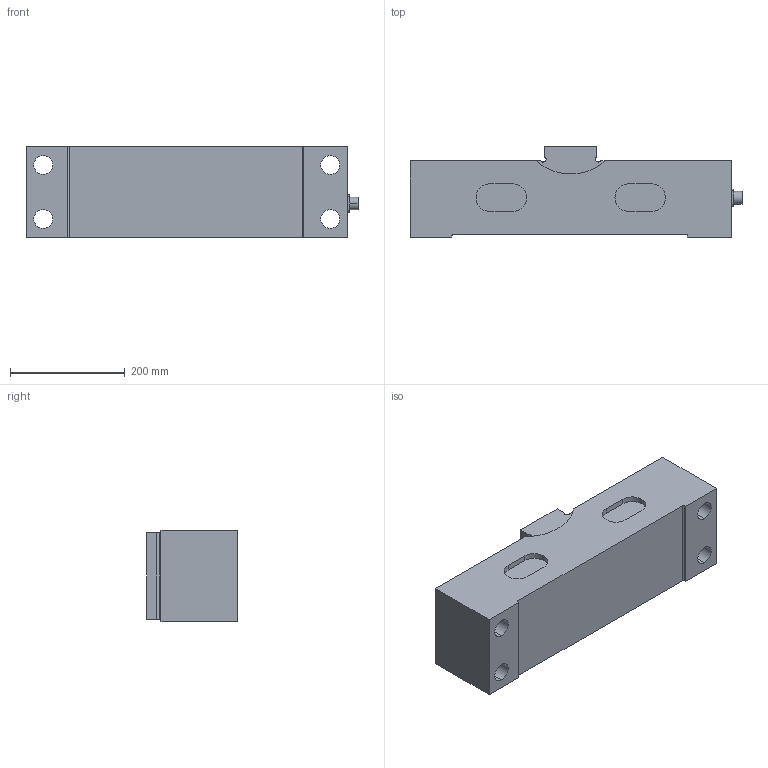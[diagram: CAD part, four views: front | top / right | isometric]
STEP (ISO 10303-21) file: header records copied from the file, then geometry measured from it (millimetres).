
FILE_DESCRIPTION (( 'STEP AP214' ), '1' );
FILE_NAME ('DSA-R 1,5MN Load Cell.STEP', '2021-06-17T08:23:36', ( '' ), ( '' ), 'SwSTEP 2.0', 'SolidWorks 2021', '' );
FILE_SCHEMA (( 'AUTOMOTIVE_DESIGN' ));
Length unit declared in the file: millimetre
Products named in the file (3): DSA-R 1,5MN Load Cell; Apparatintag 14S-2 6 P, Amphenol ; DSA-R 1,5 MN
Assembly tree (2 placements, depth 2):
  DSA-R 1,5MN Load Cell
    DSA-R 1,5 MN
    Apparatintag 14S-2 6 P, Amphenol 
Bounding box: 578.3 x 158 x 160 mm (x, y, z)
Volume: 10979996.3 mm3; surface area: 485501.7 mm2
Topology: 2 solids, 2 shells, 208 faces, 491 edges, 297 vertices
Faces by surface type: cylinder 107, plane 55, cone 34, torus 12
Entity records: 6219 total; most frequent: DIRECTION 1135, CARTESIAN_POINT 979, ORIENTED_EDGE 938, EDGE_CURVE 469, AXIS2_PLACEMENT_3D 453, VERTEX_POINT 297, EDGE_LOOP 256, CIRCLE 240
